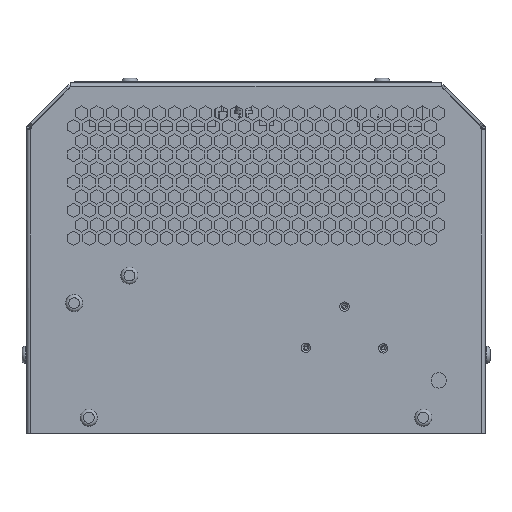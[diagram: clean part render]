
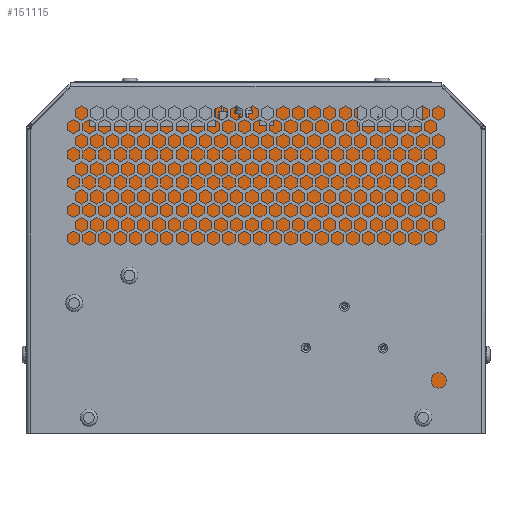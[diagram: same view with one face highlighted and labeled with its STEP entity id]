
A CAD part, left-side view. The second image highlights one B-rep face of the part: STEP entity #151115.
In plain terms, the highlighted planar face has unit normal (-1, 0, 0).
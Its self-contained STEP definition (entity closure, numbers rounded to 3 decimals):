
#353 = EDGE_LOOP ( 'NONE', ( #85318, #88700, #138359, #77185, #151066, #76179 ) ) ;
#1319 = CARTESIAN_POINT ( 'NONE',  ( 55.483, -58.12, 54.45 ) ) ;
#2205 = LINE ( 'NONE', #177254, #157846 ) ;
#7887 = VECTOR ( 'NONE', #114567, 1000. ) ;
#29440 = LINE ( 'NONE', #173222, #147353 ) ;
#35023 = EDGE_CURVE ( 'NONE', #133132, #60670, #93299, .T. ) ;
#35270 = EDGE_CURVE ( 'NONE', #60670, #48320, #29440, .T. ) ;
#38414 = CARTESIAN_POINT ( 'NONE',  ( 55.483, -69.813, -50.961 ) ) ;
#42885 = DIRECTION ( 'NONE',  ( 0., -1., 0. ) ) ;
#45137 = CARTESIAN_POINT ( 'NONE',  ( 55.483, -69.813, 42.757 ) ) ;
#48320 = VERTEX_POINT ( 'NONE', #98241 ) ;
#60670 = VERTEX_POINT ( 'NONE', #45137 ) ;
#65230 = CARTESIAN_POINT ( 'NONE',  ( 55.483, 69.087, 42.757 ) ) ;
#65590 = FACE_OUTER_BOUND ( 'NONE', #353, .T. ) ;
#69145 = LINE ( 'NONE', #159392, #7887 ) ;
#69424 = LINE ( 'NONE', #65230, #189690 ) ;
#70429 = VERTEX_POINT ( 'NONE', #156290 ) ;
#76179 = ORIENTED_EDGE ( 'NONE', *, *, #163385, .F. ) ;
#77185 = ORIENTED_EDGE ( 'NONE', *, *, #138829, .F. ) ;
#85318 = ORIENTED_EDGE ( 'NONE', *, *, #35270, .F. ) ;
#86472 = DIRECTION ( 'NONE',  ( 0., 1., 0. ) ) ;
#88700 = ORIENTED_EDGE ( 'NONE', *, *, #35023, .F. ) ;
#89898 = LINE ( 'NONE', #38414, #148819 ) ;
#93299 = LINE ( 'NONE', #1319, #192230 ) ;
#93537 = CARTESIAN_POINT ( 'NONE',  ( 55.483, 6.7, 19.45 ) ) ;
#98241 = CARTESIAN_POINT ( 'NONE',  ( 55.483, -69.813, -50.961 ) ) ;
#109319 = DIRECTION ( 'NONE',  ( 1., 0., 0. ) ) ;
#111944 = DIRECTION ( 'NONE',  ( 0., 0., -1. ) ) ;
#114567 = DIRECTION ( 'NONE',  ( 0., 0., 1. ) ) ;
#125200 = CARTESIAN_POINT ( 'NONE',  ( 55.483, -58.12, 54.45 ) ) ;
#125728 = PLANE ( 'NONE',  #139532 ) ;
#133132 = VERTEX_POINT ( 'NONE', #125200 ) ;
#138359 = ORIENTED_EDGE ( 'NONE', *, *, #184944, .F. ) ;
#138829 = EDGE_CURVE ( 'NONE', #189061, #70429, #69424, .T. ) ;
#139532 = AXIS2_PLACEMENT_3D ( 'NONE', #93537, #109319, #153451 ) ;
#139599 = DIRECTION ( 'NONE',  ( 0., -0.707, 0.707 ) ) ;
#147353 = VECTOR ( 'NONE', #111944, 1000. ) ;
#148819 = VECTOR ( 'NONE', #86472, 1000. ) ;
#150395 = VERTEX_POINT ( 'NONE', #162458 ) ;
#151066 = ORIENTED_EDGE ( 'NONE', *, *, #169686, .F. ) ;
#151115 = ADVANCED_FACE ( 'NONE', ( #65590 ), #125728, .F. ) ;
#153451 = DIRECTION ( 'NONE',  ( 0., 0., 1. ) ) ;
#156290 = CARTESIAN_POINT ( 'NONE',  ( 55.483, 57.393, 54.45 ) ) ;
#157846 = VECTOR ( 'NONE', #42885, 1000. ) ;
#159392 = CARTESIAN_POINT ( 'NONE',  ( 55.483, 69.087, -50.961 ) ) ;
#162458 = CARTESIAN_POINT ( 'NONE',  ( 55.483, 69.087, -50.961 ) ) ;
#163385 = EDGE_CURVE ( 'NONE', #48320, #150395, #89898, .T. ) ;
#165436 = DIRECTION ( 'NONE',  ( 0., -0.707, -0.707 ) ) ;
#169686 = EDGE_CURVE ( 'NONE', #150395, #189061, #69145, .T. ) ;
#173222 = CARTESIAN_POINT ( 'NONE',  ( 55.483, -69.813, 42.757 ) ) ;
#177254 = CARTESIAN_POINT ( 'NONE',  ( 55.483, 57.393, 54.45 ) ) ;
#184944 = EDGE_CURVE ( 'NONE', #70429, #133132, #2205, .T. ) ;
#188154 = CARTESIAN_POINT ( 'NONE',  ( 55.483, 69.087, 42.757 ) ) ;
#189061 = VERTEX_POINT ( 'NONE', #188154 ) ;
#189690 = VECTOR ( 'NONE', #139599, 1000. ) ;
#192230 = VECTOR ( 'NONE', #165436, 1000. ) ;
